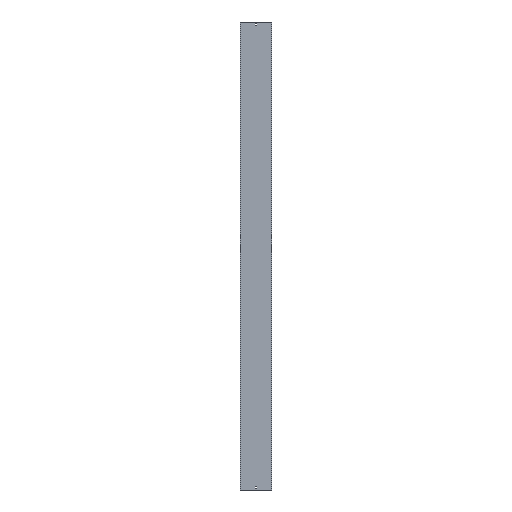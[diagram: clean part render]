
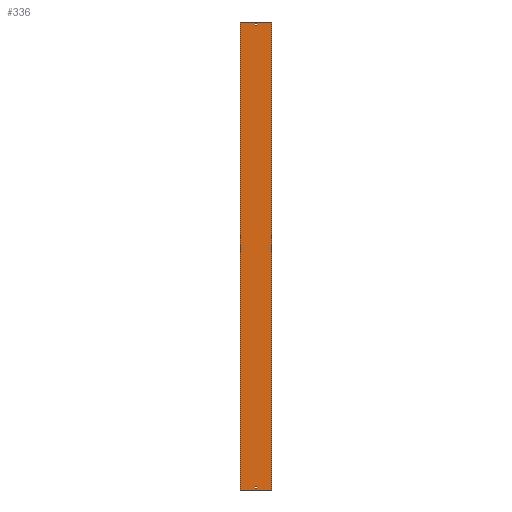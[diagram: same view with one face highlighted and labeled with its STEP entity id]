
A CAD part, front view. The second image highlights one B-rep face of the part: STEP entity #336.
In plain terms, the highlighted planar face has unit normal (0, -1, 0).
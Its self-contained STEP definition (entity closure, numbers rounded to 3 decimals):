
#17 = FACE_BOUND ( 'NONE', #363, .T. ) ;
#21 = CARTESIAN_POINT ( 'NONE',  ( -3.25, 0., 1488. ) ) ;
#59 = VECTOR ( 'NONE', #1582, 1000. ) ;
#64 = DIRECTION ( 'NONE',  ( 1., 0., 0. ) ) ;
#72 = EDGE_CURVE ( 'NONE', #1208, #564, #659, .T. ) ;
#103 = CARTESIAN_POINT ( 'NONE',  ( -3.25, 0., -1488. ) ) ;
#137 = FACE_OUTER_BOUND ( 'NONE', #450, .T. ) ;
#161 = LINE ( 'NONE', #21, #197 ) ;
#197 = VECTOR ( 'NONE', #676, 1000. ) ;
#204 = DIRECTION ( 'NONE',  ( 1., 0., 0. ) ) ;
#261 = VERTEX_POINT ( 'NONE', #1265 ) ;
#262 = EDGE_CURVE ( 'NONE', #1123, #946, #1507, .T. ) ;
#266 = ORIENTED_EDGE ( 'NONE', *, *, #1152, .F. ) ;
#278 = DIRECTION ( 'NONE',  ( 0., 0., -1. ) ) ;
#279 = VECTOR ( 'NONE', #204, 1000. ) ;
#289 = ORIENTED_EDGE ( 'NONE', *, *, #1669, .F. ) ;
#310 = CARTESIAN_POINT ( 'NONE',  ( -3.25, 0., 1488. ) ) ;
#328 = CARTESIAN_POINT ( 'NONE',  ( 102., 0., -1500. ) ) ;
#336 = ADVANCED_FACE ( 'NONE', ( #137, #1292, #17 ), #1158, .F. ) ;
#350 = VECTOR ( 'NONE', #878, 1000. ) ;
#359 = CARTESIAN_POINT ( 'NONE',  ( 3.25, 0., -1488. ) ) ;
#363 = EDGE_LOOP ( 'NONE', ( #508, #1432, #920, #636 ) ) ;
#369 = EDGE_CURVE ( 'NONE', #700, #1561, #1322, .T. ) ;
#384 = LINE ( 'NONE', #1143, #411 ) ;
#405 = DIRECTION ( 'NONE',  ( 0., 0., 1. ) ) ;
#411 = VECTOR ( 'NONE', #640, 1000. ) ;
#450 = EDGE_LOOP ( 'NONE', ( #594, #266, #1089, #1191 ) ) ;
#508 = ORIENTED_EDGE ( 'NONE', *, *, #262, .T. ) ;
#527 = DIRECTION ( 'NONE',  ( -1., 0., 0. ) ) ;
#535 = CARTESIAN_POINT ( 'NONE',  ( -102., 0., 1500. ) ) ;
#556 = CARTESIAN_POINT ( 'NONE',  ( -3.25, 0., -1488. ) ) ;
#557 = EDGE_CURVE ( 'NONE', #1510, #261, #1479, .T. ) ;
#563 = LINE ( 'NONE', #811, #735 ) ;
#564 = VERTEX_POINT ( 'NONE', #328 ) ;
#565 = EDGE_CURVE ( 'NONE', #946, #942, #1117, .T. ) ;
#575 = ORIENTED_EDGE ( 'NONE', *, *, #1140, .F. ) ;
#581 = CARTESIAN_POINT ( 'NONE',  ( 3.25, 0., -1479. ) ) ;
#594 = ORIENTED_EDGE ( 'NONE', *, *, #72, .T. ) ;
#619 = CARTESIAN_POINT ( 'NONE',  ( 3.25, 0., 1488. ) ) ;
#636 = ORIENTED_EDGE ( 'NONE', *, *, #1588, .T. ) ;
#637 = DIRECTION ( 'NONE',  ( 1., 0., 0. ) ) ;
#640 = DIRECTION ( 'NONE',  ( 0., 0., -1. ) ) ;
#652 = CARTESIAN_POINT ( 'NONE',  ( -3.25, 0., 1479. ) ) ;
#659 = LINE ( 'NONE', #1481, #1385 ) ;
#676 = DIRECTION ( 'NONE',  ( -1., 0., 0. ) ) ;
#700 = VERTEX_POINT ( 'NONE', #969 ) ;
#708 = VECTOR ( 'NONE', #966, 1000. ) ;
#723 = CARTESIAN_POINT ( 'NONE',  ( -3.25, 0., 1488. ) ) ;
#735 = VECTOR ( 'NONE', #278, 1000. ) ;
#761 = DIRECTION ( 'NONE',  ( 0., 1., 0. ) ) ;
#811 = CARTESIAN_POINT ( 'NONE',  ( 102., 0., 1500. ) ) ;
#834 = CARTESIAN_POINT ( 'NONE',  ( -3.25, 0., -1479. ) ) ;
#854 = CARTESIAN_POINT ( 'NONE',  ( -3.25, 0., -1479. ) ) ;
#878 = DIRECTION ( 'NONE',  ( 0., 0., 1. ) ) ;
#906 = EDGE_CURVE ( 'NONE', #1166, #1101, #1477, .T. ) ;
#910 = LINE ( 'NONE', #652, #1639 ) ;
#920 = ORIENTED_EDGE ( 'NONE', *, *, #1126, .T. ) ;
#942 = VERTEX_POINT ( 'NONE', #581 ) ;
#946 = VERTEX_POINT ( 'NONE', #834 ) ;
#966 = DIRECTION ( 'NONE',  ( 0., 0., -1. ) ) ;
#969 = CARTESIAN_POINT ( 'NONE',  ( 3.25, 0., 1479. ) ) ;
#984 = ORIENTED_EDGE ( 'NONE', *, *, #906, .F. ) ;
#998 = VERTEX_POINT ( 'NONE', #359 ) ;
#999 = DIRECTION ( 'NONE',  ( -1., 0., 0. ) ) ;
#1054 = EDGE_CURVE ( 'NONE', #1510, #1208, #384, .T. ) ;
#1089 = ORIENTED_EDGE ( 'NONE', *, *, #557, .F. ) ;
#1101 = VERTEX_POINT ( 'NONE', #1209 ) ;
#1117 = LINE ( 'NONE', #854, #279 ) ;
#1123 = VERTEX_POINT ( 'NONE', #556 ) ;
#1126 = EDGE_CURVE ( 'NONE', #942, #998, #1460, .T. ) ;
#1130 = LINE ( 'NONE', #1647, #1257 ) ;
#1140 = EDGE_CURVE ( 'NONE', #1561, #1166, #161, .T. ) ;
#1143 = CARTESIAN_POINT ( 'NONE',  ( -102., 0., 1500. ) ) ;
#1152 = EDGE_CURVE ( 'NONE', #261, #564, #563, .T. ) ;
#1158 = PLANE ( 'NONE',  #1411 ) ;
#1166 = VERTEX_POINT ( 'NONE', #310 ) ;
#1191 = ORIENTED_EDGE ( 'NONE', *, *, #1054, .T. ) ;
#1201 = VECTOR ( 'NONE', #1453, 1000. ) ;
#1208 = VERTEX_POINT ( 'NONE', #1340 ) ;
#1209 = CARTESIAN_POINT ( 'NONE',  ( -3.25, 0., 1479. ) ) ;
#1257 = VECTOR ( 'NONE', #999, 1000. ) ;
#1265 = CARTESIAN_POINT ( 'NONE',  ( 102., 0., 1500. ) ) ;
#1292 = FACE_BOUND ( 'NONE', #1525, .T. ) ;
#1322 = LINE ( 'NONE', #1569, #1544 ) ;
#1340 = CARTESIAN_POINT ( 'NONE',  ( -102., 0., -1500. ) ) ;
#1358 = CARTESIAN_POINT ( 'NONE',  ( -102., 0., 1500. ) ) ;
#1383 = CARTESIAN_POINT ( 'NONE',  ( -102., 0., 1500. ) ) ;
#1385 = VECTOR ( 'NONE', #64, 1000. ) ;
#1411 = AXIS2_PLACEMENT_3D ( 'NONE', #535, #761, #527 ) ;
#1432 = ORIENTED_EDGE ( 'NONE', *, *, #565, .T. ) ;
#1453 = DIRECTION ( 'NONE',  ( 0., 0., -1. ) ) ;
#1460 = LINE ( 'NONE', #1571, #1201 ) ;
#1477 = LINE ( 'NONE', #723, #708 ) ;
#1479 = LINE ( 'NONE', #1358, #59 ) ;
#1481 = CARTESIAN_POINT ( 'NONE',  ( -102., 0., -1500. ) ) ;
#1483 = ORIENTED_EDGE ( 'NONE', *, *, #369, .F. ) ;
#1507 = LINE ( 'NONE', #103, #350 ) ;
#1510 = VERTEX_POINT ( 'NONE', #1383 ) ;
#1525 = EDGE_LOOP ( 'NONE', ( #289, #984, #575, #1483 ) ) ;
#1544 = VECTOR ( 'NONE', #405, 1000. ) ;
#1561 = VERTEX_POINT ( 'NONE', #619 ) ;
#1569 = CARTESIAN_POINT ( 'NONE',  ( 3.25, 0., 1488. ) ) ;
#1571 = CARTESIAN_POINT ( 'NONE',  ( 3.25, 0., -1488. ) ) ;
#1582 = DIRECTION ( 'NONE',  ( 1., 0., 0. ) ) ;
#1588 = EDGE_CURVE ( 'NONE', #998, #1123, #1130, .T. ) ;
#1639 = VECTOR ( 'NONE', #637, 1000. ) ;
#1647 = CARTESIAN_POINT ( 'NONE',  ( -3.25, 0., -1488. ) ) ;
#1669 = EDGE_CURVE ( 'NONE', #1101, #700, #910, .T. ) ;
